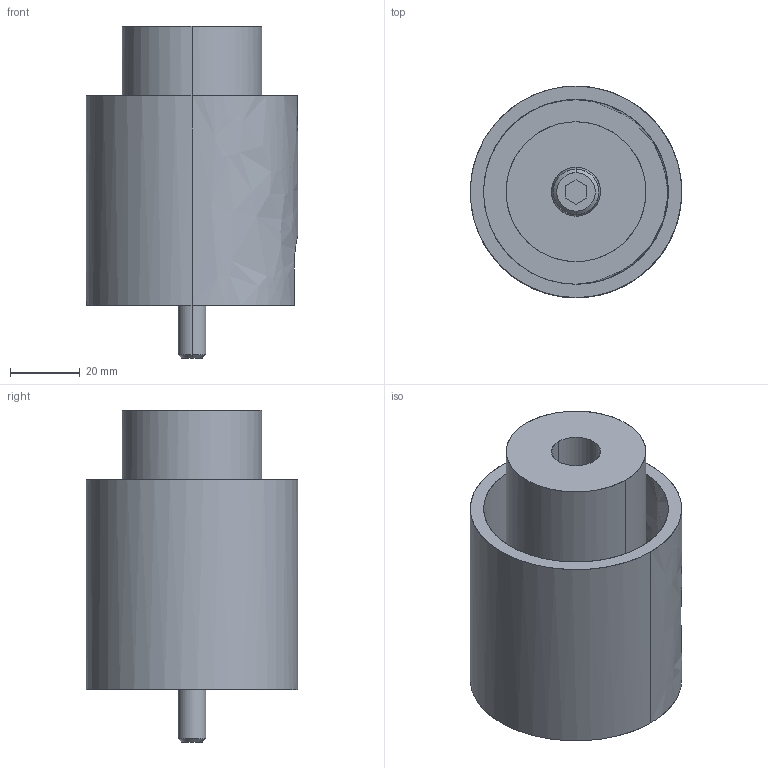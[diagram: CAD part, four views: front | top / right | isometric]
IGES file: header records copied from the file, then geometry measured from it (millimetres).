
Global section: file name: E:\UnigraphicsGraphicData\MISUMI_PRESS-PARTS\IGES\3d_phubn40-80-60-r_07088_r00.igs; native system: NX V5.0; preprocessor: UGS NX IGES V5.0; author: MISUMI; date: 20110105.162254; units: millimetre
Bounding box: 60.5 x 60.5 x 95 mm (x, y, z)
Surface area: 46497.7 mm2 (no closed solid volume)
Topology: 0 solids, 0 shells, 49 faces, 376 edges, 376 vertices
Faces by surface type: bspline 49
